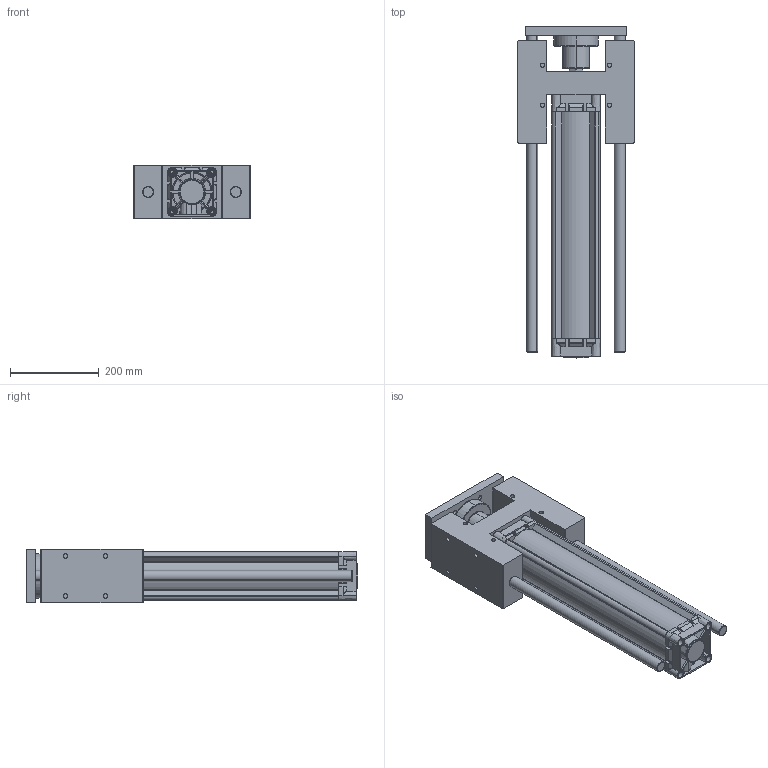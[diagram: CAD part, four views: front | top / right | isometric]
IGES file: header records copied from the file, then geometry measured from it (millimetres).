
Start section: SolidWorks IGES file using analytic representation for surfaces
Global section: file name: D:\ARICA 3D 禽Z軲LER\3D IGES\DNC-H\MDNC\100\MDNC100X450H-YATAK.IGS,1; native system: 5HSolidWorks 2013; preprocessor: SolidWorks 2013; author: user; date: 160523.115925; units: millimetre
Bounding box: 262 x 746.2 x 120.5 mm (x, y, z)
Surface area: 1272473.8 mm2 (no closed solid volume)
Topology: 0 solids, 0 shells, 1241 faces, 20783 edges, 20762 vertices
Faces by surface type: revolution 727, bspline 514
